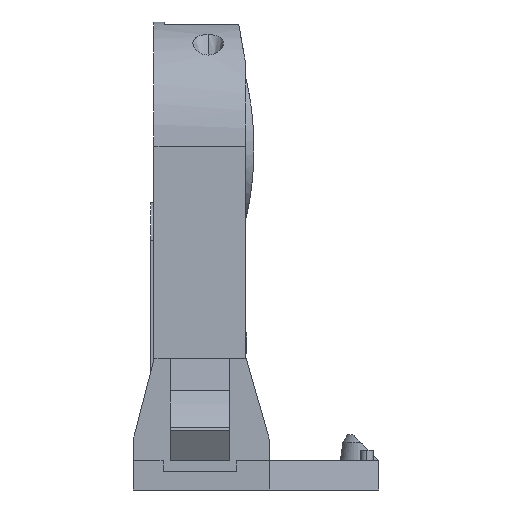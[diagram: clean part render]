
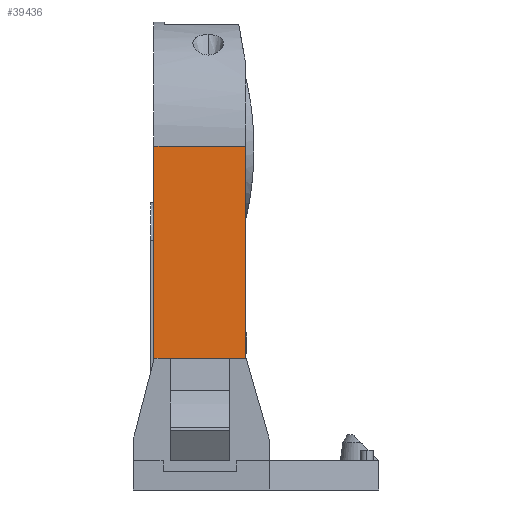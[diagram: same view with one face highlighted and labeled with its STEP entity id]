
A CAD part, left-side view. The second image highlights one B-rep face of the part: STEP entity #39436.
In plain terms, the highlighted planar face has unit normal (-1, 0, 0.017).
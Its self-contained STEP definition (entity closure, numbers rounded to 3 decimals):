
#12806=CARTESIAN_POINT(' ',(-12.5,-8.8,9.851));
#12807=VERTEX_POINT(' ',#12806);
#12821=CARTESIAN_POINT(' ',(-12.5,-8.8,9.851));
#12826=DIRECTION(' ',(0.,1.,0.));
#12831=VECTOR(' ',#12826,1.);
#12836=LINE('',#12821,#12831);
#12841=CARTESIAN_POINT(' ',(-12.5,-7.25,9.851));
#12842=VERTEX_POINT(' ',#12841);
#12846=EDGE_CURVE(' ',#12807,#12842,#12836,.T.);
#12946=CARTESIAN_POINT(' ',(-12.5,-1.55,9.851));
#12947=VERTEX_POINT(' ',#12946);
#12961=CARTESIAN_POINT(' ',(-12.5,-1.55,9.851));
#12966=DIRECTION(' ',(0.,1.,0.));
#12971=VECTOR(' ',#12966,1.);
#12976=LINE('',#12961,#12971);
#12981=CARTESIAN_POINT(' ',(-12.5,0.,9.851));
#12982=VERTEX_POINT(' ',#12981);
#12986=EDGE_CURVE(' ',#12947,#12982,#12976,.T.);
#26401=CARTESIAN_POINT(' ',(-12.148,-8.8,30.21));
#26402=VERTEX_POINT(' ',#26401);
#26416=CARTESIAN_POINT(' ',(-12.148,-8.8,30.21));
#26421=DIRECTION(' ',(-0.017,0.,-1.));
#26426=VECTOR(' ',#26421,1.);
#26431=LINE('',#26416,#26426);
#26436=CARTESIAN_POINT(' ',(-12.497,-8.8,10.021));
#26437=VERTEX_POINT(' ',#26436);
#26441=EDGE_CURVE(' ',#26402,#26437,#26431,.T.);
#38006=CARTESIAN_POINT(' ',(-12.148,0.,30.21));
#38011=DIRECTION(' ',(-0.017,0.,-1.));
#38016=VECTOR(' ',#38011,1.);
#38021=LINE('',#38006,#38016);
#38026=CARTESIAN_POINT(' ',(-12.148,0.,30.21));
#38027=VERTEX_POINT(' ',#38026);
#38031=EDGE_CURVE(' ',#38027,#12982,#38021,.T.);
#39046=CARTESIAN_POINT(' ',(-12.497,-8.8,10.021));
#39051=DIRECTION(' ',(-0.017,0.,-1.));
#39056=VECTOR(' ',#39051,1.);
#39061=LINE('',#39046,#39056);
#39066=EDGE_CURVE(' ',#26437,#12807,#39061,.T.);
#39316=DIRECTION(' ',(-1.,-0.,0.017));
#39321=CARTESIAN_POINT(' ',(-12.148,-8.8,30.21));
#39326=DIRECTION(' ',(0.,1.,0.));
#39331=AXIS2_PLACEMENT_3D(' ',#39321,#39316,#39326);
#39336=PLANE('',#39331);
#39341=ORIENTED_EDGE(' ',*,*,#38031,.T.);
#39346=ORIENTED_EDGE(' ',*,*,#12986,.F.);
#39351=CARTESIAN_POINT(' ',(-12.5,-1.55,9.851));
#39356=DIRECTION(' ',(0.,-1.,0.));
#39361=VECTOR(' ',#39356,1.);
#39366=LINE('',#39351,#39361);
#39371=EDGE_CURVE(' ',#12947,#12842,#39366,.T.);
#39376=ORIENTED_EDGE(' ',*,*,#39371,.T.);
#39381=ORIENTED_EDGE(' ',*,*,#12846,.F.);
#39386=ORIENTED_EDGE(' ',*,*,#39066,.F.);
#39391=ORIENTED_EDGE(' ',*,*,#26441,.F.);
#39396=CARTESIAN_POINT(' ',(-12.148,-8.8,30.21));
#39401=DIRECTION(' ',(0.,1.,0.));
#39406=VECTOR(' ',#39401,1.);
#39411=LINE('',#39396,#39406);
#39416=EDGE_CURVE(' ',#26402,#38027,#39411,.T.);
#39421=ORIENTED_EDGE(' ',*,*,#39416,.T.);
#39426=EDGE_LOOP(' ',(#39341,#39346,#39376,#39381,#39386,#39391,#39421));
#39431=FACE_OUTER_BOUND(' ',#39426,.T.);
#39436=ADVANCED_FACE('',(#39431),#39336,.T.);
